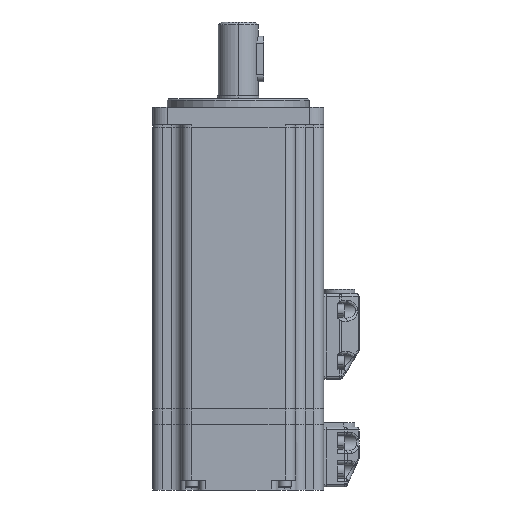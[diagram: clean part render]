
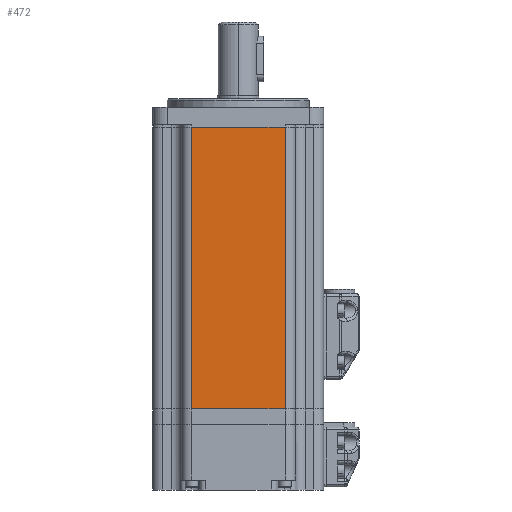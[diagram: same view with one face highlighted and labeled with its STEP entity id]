
A CAD part, front view. The second image highlights one B-rep face of the part: STEP entity #472.
In plain terms, the highlighted planar face has unit normal (0, -1, 0).
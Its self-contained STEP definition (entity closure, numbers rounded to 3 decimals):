
#472 = ADVANCED_FACE ( 'NONE', ( #29085 ), #39935, .F. ) ;
#1157 = ORIENTED_EDGE ( 'NONE', *, *, #28545, .T. ) ;
#1323 = EDGE_CURVE ( 'NONE', #25121, #40205, #12526, .T. ) ;
#1751 = VECTOR ( 'NONE', #29773, 1000. ) ;
#8560 = DIRECTION ( 'NONE',  ( 0., 0., -1. ) ) ;
#12403 = EDGE_CURVE ( 'NONE', #25121, #12926, #36742, .T. ) ;
#12526 = LINE ( 'NONE', #45864, #1751 ) ;
#12926 = VERTEX_POINT ( 'NONE', #35630 ) ;
#13637 = CARTESIAN_POINT ( 'NONE',  ( -20., -30., 0. ) ) ;
#19288 = CARTESIAN_POINT ( 'NONE',  ( 16.5, -30., -99. ) ) ;
#19793 = DIRECTION ( 'NONE',  ( 0., 0., 1. ) ) ;
#21026 = ORIENTED_EDGE ( 'NONE', *, *, #1323, .F. ) ;
#22115 = VERTEX_POINT ( 'NONE', #27022 ) ;
#22415 = LINE ( 'NONE', #13637, #52181 ) ;
#25121 = VERTEX_POINT ( 'NONE', #45441 ) ;
#25731 = EDGE_LOOP ( 'NONE', ( #31034, #1157, #21026, #51784 ) ) ;
#25956 = CARTESIAN_POINT ( 'NONE',  ( -16.5, -30., -99. ) ) ;
#25961 = VECTOR ( 'NONE', #27372, 1000. ) ;
#27022 = CARTESIAN_POINT ( 'NONE',  ( -16.5, -30., 0. ) ) ;
#27372 = DIRECTION ( 'NONE',  ( 0., 0., 1. ) ) ;
#28545 = EDGE_CURVE ( 'NONE', #22115, #40205, #52144, .T. ) ;
#29085 = FACE_OUTER_BOUND ( 'NONE', #25731, .T. ) ;
#29773 = DIRECTION ( 'NONE',  ( -1., 0., 0. ) ) ;
#30563 = VECTOR ( 'NONE', #8560, 1000. ) ;
#31034 = ORIENTED_EDGE ( 'NONE', *, *, #43290, .T. ) ;
#32797 = CARTESIAN_POINT ( 'NONE',  ( -16.5, -30., -99. ) ) ;
#35630 = CARTESIAN_POINT ( 'NONE',  ( 16.5, -30., 0. ) ) ;
#35889 = CARTESIAN_POINT ( 'NONE',  ( -20., -30., -99. ) ) ;
#36742 = LINE ( 'NONE', #19288, #25961 ) ;
#39935 = PLANE ( 'NONE',  #48491 ) ;
#40205 = VERTEX_POINT ( 'NONE', #25956 ) ;
#43290 = EDGE_CURVE ( 'NONE', #12926, #22115, #22415, .T. ) ;
#44019 = DIRECTION ( 'NONE',  ( 0., 1., 0. ) ) ;
#45441 = CARTESIAN_POINT ( 'NONE',  ( 16.5, -30., -99. ) ) ;
#45864 = CARTESIAN_POINT ( 'NONE',  ( -20., -30., -99. ) ) ;
#45991 = DIRECTION ( 'NONE',  ( -1., 0., 0. ) ) ;
#48491 = AXIS2_PLACEMENT_3D ( 'NONE', #35889, #44019, #19793 ) ;
#51784 = ORIENTED_EDGE ( 'NONE', *, *, #12403, .T. ) ;
#52144 = LINE ( 'NONE', #32797, #30563 ) ;
#52181 = VECTOR ( 'NONE', #45991, 1000. ) ;
